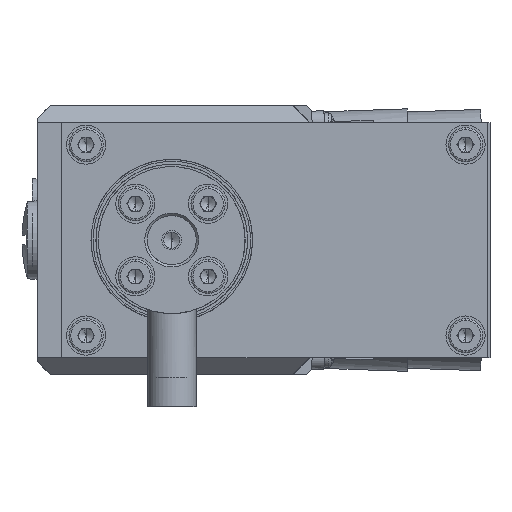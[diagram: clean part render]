
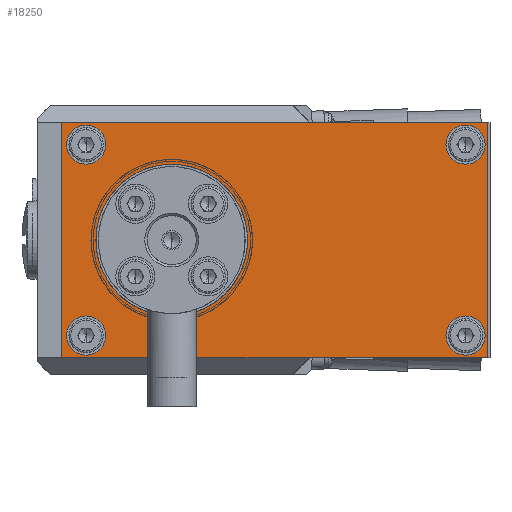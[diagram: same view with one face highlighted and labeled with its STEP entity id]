
A CAD part, left-side view. The second image highlights one B-rep face of the part: STEP entity #18250.
In plain terms, the highlighted planar face has unit normal (-1, 0, 0).
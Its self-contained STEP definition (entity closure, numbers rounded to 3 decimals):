
#429 = EDGE_CURVE ( 'NONE', #49528, #5445, #733, .T. ) ;
#733 = CIRCLE ( 'NONE', #33788, 15.5 ) ;
#1937 = FACE_BOUND ( 'NONE', #43802, .T. ) ;
#2342 = DIRECTION ( 'NONE',  ( 0., 0., 1. ) ) ;
#2703 = CARTESIAN_POINT ( 'NONE',  ( -106.001, -23.121, 2.182 ) ) ;
#4279 = VERTEX_POINT ( 'NONE', #37380 ) ;
#4294 = DIRECTION ( 'NONE',  ( 0., 0., 1. ) ) ;
#4837 = CIRCLE ( 'NONE', #46071, 15.5 ) ;
#5445 = VERTEX_POINT ( 'NONE', #37860 ) ;
#5499 = DIRECTION ( 'NONE',  ( -1., 0., 0. ) ) ;
#5860 = EDGE_CURVE ( 'NONE', #20781, #6652, #17937, .T. ) ;
#6240 = VECTOR ( 'NONE', #36835, 1000. ) ;
#6652 = VERTEX_POINT ( 'NONE', #10219 ) ;
#8712 = DIRECTION ( 'NONE',  ( -1., 0., 0. ) ) ;
#9716 = CARTESIAN_POINT ( 'NONE',  ( -106.001, -27.621, -2.318 ) ) ;
#10219 = CARTESIAN_POINT ( 'NONE',  ( -106.001, 59.379, -2.318 ) ) ;
#10318 = DIRECTION ( 'NONE',  ( 0., 0., 1. ) ) ;
#10631 = DIRECTION ( 'NONE',  ( -1., 0., 0. ) ) ;
#11309 = DIRECTION ( 'NONE',  ( -1., 0., 0. ) ) ;
#11914 = VERTEX_POINT ( 'NONE', #19425 ) ;
#11984 = EDGE_LOOP ( 'NONE', ( #13132, #17336 ) ) ;
#12411 = EDGE_CURVE ( 'NONE', #37079, #14008, #43593, .T. ) ;
#12597 = DIRECTION ( 'NONE',  ( 0., 0., 1. ) ) ;
#13132 = ORIENTED_EDGE ( 'NONE', *, *, #15590, .F. ) ;
#13747 = DIRECTION ( 'NONE',  ( 0., 0., 1. ) ) ;
#13907 = DIRECTION ( 'NONE',  ( -1., 0., 0. ) ) ;
#14008 = VERTEX_POINT ( 'NONE', #22786 ) ;
#14261 = AXIS2_PLACEMENT_3D ( 'NONE', #37723, #56915, #42545 ) ;
#14684 = AXIS2_PLACEMENT_3D ( 'NONE', #53195, #19685, #33406 ) ;
#14961 = EDGE_CURVE ( 'NONE', #25767, #55616, #48252, .T. ) ;
#15590 = EDGE_CURVE ( 'NONE', #55616, #25767, #58080, .T. ) ;
#15632 = CARTESIAN_POINT ( 'NONE',  ( -106.001, -23.121, 2.182 ) ) ;
#15712 = EDGE_LOOP ( 'NONE', ( #20434, #19692 ) ) ;
#15803 = EDGE_CURVE ( 'NONE', #11914, #20781, #20563, .T. ) ;
#16426 = CIRCLE ( 'NONE', #14684, 4. ) ;
#16496 = ORIENTED_EDGE ( 'NONE', *, *, #38906, .F. ) ;
#17262 = EDGE_CURVE ( 'NONE', #41055, #60161, #54312, .T. ) ;
#17336 = ORIENTED_EDGE ( 'NONE', *, *, #14961, .F. ) ;
#17781 = FACE_BOUND ( 'NONE', #41715, .T. ) ;
#17885 = CARTESIAN_POINT ( 'NONE',  ( -106.001, 54.379, 45.182 ) ) ;
#17937 = LINE ( 'NONE', #22963, #29254 ) ;
#18247 = CARTESIAN_POINT ( 'NONE',  ( -106.001, 54.379, 41.182 ) ) ;
#18250 = ADVANCED_FACE ( 'NONE', ( #20792, #17781, #19301, #26054, #1937, #37395 ), #19397, .F. ) ;
#18995 = DIRECTION ( 'NONE',  ( 1., 0., 0. ) ) ;
#19169 = CARTESIAN_POINT ( 'NONE',  ( -106.001, -23.121, 41.182 ) ) ;
#19301 = FACE_BOUND ( 'NONE', #15712, .T. ) ;
#19397 = PLANE ( 'NONE',  #21270 ) ;
#19425 = CARTESIAN_POINT ( 'NONE',  ( -106.001, -27.621, 45.682 ) ) ;
#19685 = DIRECTION ( 'NONE',  ( -1., 0., 0. ) ) ;
#19692 = ORIENTED_EDGE ( 'NONE', *, *, #39750, .F. ) ;
#20165 = CARTESIAN_POINT ( 'NONE',  ( -106.001, 54.379, -1.818 ) ) ;
#20201 = CARTESIAN_POINT ( 'NONE',  ( -106.001, -23.121, 6.182 ) ) ;
#20434 = ORIENTED_EDGE ( 'NONE', *, *, #28395, .F. ) ;
#20563 = LINE ( 'NONE', #61483, #6240 ) ;
#20781 = VERTEX_POINT ( 'NONE', #59221 ) ;
#20792 = FACE_BOUND ( 'NONE', #11984, .T. ) ;
#21270 = AXIS2_PLACEMENT_3D ( 'NONE', #9716, #18995, #52720 ) ;
#21382 = AXIS2_PLACEMENT_3D ( 'NONE', #18247, #23090, #60652 ) ;
#21682 = CIRCLE ( 'NONE', #22166, 4. ) ;
#22166 = AXIS2_PLACEMENT_3D ( 'NONE', #15632, #10631, #34662 ) ;
#22786 = CARTESIAN_POINT ( 'NONE',  ( -106.001, -23.121, 45.182 ) ) ;
#22963 = CARTESIAN_POINT ( 'NONE',  ( -106.001, 59.379, -2.318 ) ) ;
#23090 = DIRECTION ( 'NONE',  ( -1., 0., 0. ) ) ;
#23433 = ORIENTED_EDGE ( 'NONE', *, *, #5860, .T. ) ;
#23764 = CIRCLE ( 'NONE', #21382, 4. ) ;
#24579 = CARTESIAN_POINT ( 'NONE',  ( -106.001, 36.879, 21.682 ) ) ;
#25627 = DIRECTION ( 'NONE',  ( 0., 0., 1. ) ) ;
#25767 = VERTEX_POINT ( 'NONE', #20165 ) ;
#25800 = ORIENTED_EDGE ( 'NONE', *, *, #429, .F. ) ;
#26054 = FACE_BOUND ( 'NONE', #44380, .T. ) ;
#26416 = VECTOR ( 'NONE', #55724, 1000. ) ;
#27199 = CARTESIAN_POINT ( 'NONE',  ( -106.001, 36.879, 21.682 ) ) ;
#27757 = ORIENTED_EDGE ( 'NONE', *, *, #57424, .T. ) ;
#27853 = DIRECTION ( 'NONE',  ( 0., 0., 1. ) ) ;
#28258 = ORIENTED_EDGE ( 'NONE', *, *, #15803, .T. ) ;
#28395 = EDGE_CURVE ( 'NONE', #48612, #36157, #23764, .T. ) ;
#29218 = ORIENTED_EDGE ( 'NONE', *, *, #62084, .F. ) ;
#29254 = VECTOR ( 'NONE', #57103, 1000. ) ;
#29943 = CARTESIAN_POINT ( 'NONE',  ( -106.001, -23.121, -1.818 ) ) ;
#30323 = ORIENTED_EDGE ( 'NONE', *, *, #38787, .F. ) ;
#30994 = EDGE_LOOP ( 'NONE', ( #44519, #28258, #23433, #27757 ) ) ;
#31635 = DIRECTION ( 'NONE',  ( -1., 0., 0. ) ) ;
#31835 = ORIENTED_EDGE ( 'NONE', *, *, #12411, .F. ) ;
#31920 = AXIS2_PLACEMENT_3D ( 'NONE', #19169, #5499, #10318 ) ;
#32510 = LINE ( 'NONE', #43268, #59615 ) ;
#33406 = DIRECTION ( 'NONE',  ( 0., 0., 1. ) ) ;
#33788 = AXIS2_PLACEMENT_3D ( 'NONE', #24579, #11309, #25627 ) ;
#34662 = DIRECTION ( 'NONE',  ( 0., 0., 1. ) ) ;
#36157 = VERTEX_POINT ( 'NONE', #60673 ) ;
#36835 = DIRECTION ( 'NONE',  ( 0., 1., 0. ) ) ;
#37079 = VERTEX_POINT ( 'NONE', #37130 ) ;
#37130 = CARTESIAN_POINT ( 'NONE',  ( -106.001, -23.121, 37.182 ) ) ;
#37380 = CARTESIAN_POINT ( 'NONE',  ( -106.001, -27.621, -2.318 ) ) ;
#37395 = FACE_OUTER_BOUND ( 'NONE', #30994, .T. ) ;
#37686 = ORIENTED_EDGE ( 'NONE', *, *, #17262, .F. ) ;
#37723 = CARTESIAN_POINT ( 'NONE',  ( -106.001, 54.379, 2.182 ) ) ;
#37756 = CARTESIAN_POINT ( 'NONE',  ( -106.001, 54.379, 41.182 ) ) ;
#37860 = CARTESIAN_POINT ( 'NONE',  ( -106.001, 36.879, 37.182 ) ) ;
#38787 = EDGE_CURVE ( 'NONE', #14008, #37079, #16426, .T. ) ;
#38906 = EDGE_CURVE ( 'NONE', #60161, #41055, #21682, .T. ) ;
#39745 = AXIS2_PLACEMENT_3D ( 'NONE', #61612, #8712, #13747 ) ;
#39750 = EDGE_CURVE ( 'NONE', #36157, #48612, #62370, .T. ) ;
#40040 = LINE ( 'NONE', #40753, #26416 ) ;
#40753 = CARTESIAN_POINT ( 'NONE',  ( -106.001, -27.621, -2.318 ) ) ;
#41055 = VERTEX_POINT ( 'NONE', #29943 ) ;
#41715 = EDGE_LOOP ( 'NONE', ( #16496, #37686 ) ) ;
#41912 = CARTESIAN_POINT ( 'NONE',  ( -106.001, 54.379, 6.182 ) ) ;
#42545 = DIRECTION ( 'NONE',  ( 0., 0., 1. ) ) ;
#43268 = CARTESIAN_POINT ( 'NONE',  ( -106.001, -27.621, 45.682 ) ) ;
#43593 = CIRCLE ( 'NONE', #31920, 4. ) ;
#43802 = EDGE_LOOP ( 'NONE', ( #29218, #25800 ) ) ;
#44239 = AXIS2_PLACEMENT_3D ( 'NONE', #2703, #56040, #12597 ) ;
#44380 = EDGE_LOOP ( 'NONE', ( #30323, #31835 ) ) ;
#44519 = ORIENTED_EDGE ( 'NONE', *, *, #50004, .T. ) ;
#46071 = AXIS2_PLACEMENT_3D ( 'NONE', #27199, #31635, #2342 ) ;
#48252 = CIRCLE ( 'NONE', #14261, 4. ) ;
#48612 = VERTEX_POINT ( 'NONE', #17885 ) ;
#49528 = VERTEX_POINT ( 'NONE', #58575 ) ;
#50004 = EDGE_CURVE ( 'NONE', #4279, #11914, #32510, .T. ) ;
#52720 = DIRECTION ( 'NONE',  ( 0., 0., -1. ) ) ;
#53195 = CARTESIAN_POINT ( 'NONE',  ( -106.001, -23.121, 41.182 ) ) ;
#54312 = CIRCLE ( 'NONE', #44239, 4. ) ;
#55326 = AXIS2_PLACEMENT_3D ( 'NONE', #37756, #13907, #27853 ) ;
#55616 = VERTEX_POINT ( 'NONE', #41912 ) ;
#55724 = DIRECTION ( 'NONE',  ( 0., -1., 0. ) ) ;
#56040 = DIRECTION ( 'NONE',  ( -1., 0., 0. ) ) ;
#56915 = DIRECTION ( 'NONE',  ( -1., 0., 0. ) ) ;
#57103 = DIRECTION ( 'NONE',  ( 0., 0., -1. ) ) ;
#57424 = EDGE_CURVE ( 'NONE', #6652, #4279, #40040, .T. ) ;
#58080 = CIRCLE ( 'NONE', #39745, 4. ) ;
#58575 = CARTESIAN_POINT ( 'NONE',  ( -106.001, 36.879, 6.182 ) ) ;
#59221 = CARTESIAN_POINT ( 'NONE',  ( -106.001, 59.379, 45.682 ) ) ;
#59615 = VECTOR ( 'NONE', #4294, 1000. ) ;
#60161 = VERTEX_POINT ( 'NONE', #20201 ) ;
#60652 = DIRECTION ( 'NONE',  ( 0., 0., 1. ) ) ;
#60673 = CARTESIAN_POINT ( 'NONE',  ( -106.001, 54.379, 37.182 ) ) ;
#61483 = CARTESIAN_POINT ( 'NONE',  ( -106.001, 59.379, 45.682 ) ) ;
#61612 = CARTESIAN_POINT ( 'NONE',  ( -106.001, 54.379, 2.182 ) ) ;
#62084 = EDGE_CURVE ( 'NONE', #5445, #49528, #4837, .T. ) ;
#62370 = CIRCLE ( 'NONE', #55326, 4. ) ;
